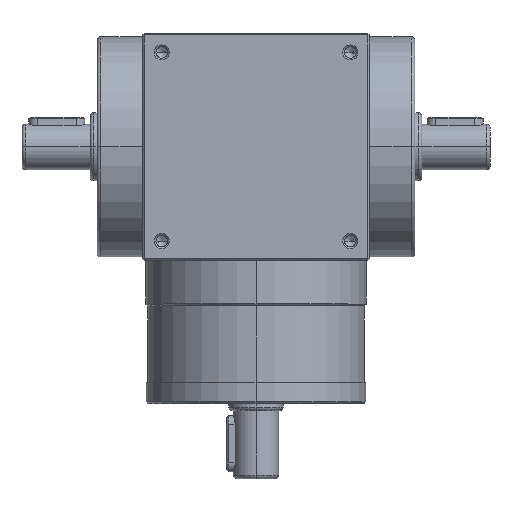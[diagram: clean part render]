
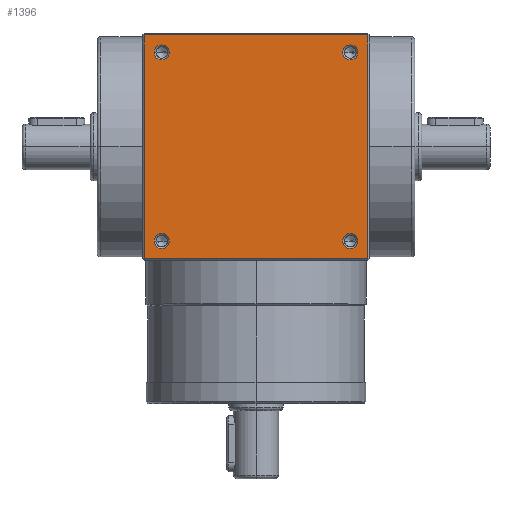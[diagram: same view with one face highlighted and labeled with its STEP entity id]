
A CAD part, top view. The second image highlights one B-rep face of the part: STEP entity #1396.
In plain terms, the highlighted planar face has unit normal (0, 0, 1).
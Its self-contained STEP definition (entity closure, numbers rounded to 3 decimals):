
#49 = AXIS2_PLACEMENT_3D ( 'NONE', #6196, #8644, #323 ) ;
#323 = DIRECTION ( 'NONE',  ( -1., 0., 0. ) ) ;
#409 = CARTESIAN_POINT ( 'NONE',  ( -32., -32., 32.5 ) ) ;
#427 = VERTEX_POINT ( 'NONE', #7299 ) ;
#439 = VERTEX_POINT ( 'NONE', #1587 ) ;
#587 = DIRECTION ( 'NONE',  ( -1., 0., 0. ) ) ;
#916 = DIRECTION ( 'NONE',  ( 1., 0., 0. ) ) ;
#926 = AXIS2_PLACEMENT_3D ( 'NONE', #3801, #7182, #2125 ) ;
#980 = DIRECTION ( 'NONE',  ( 0., 0., -1. ) ) ;
#996 = ORIENTED_EDGE ( 'NONE', *, *, #5405, .T. ) ;
#1021 = DIRECTION ( 'NONE',  ( -1., 0., 0. ) ) ;
#1396 = ADVANCED_FACE ( 'NONE', ( #5207, #2993, #9368, #10684, #5710 ), #2076, .F. ) ;
#1542 = AXIS2_PLACEMENT_3D ( 'NONE', #9309, #8500, #1021 ) ;
#1587 = CARTESIAN_POINT ( 'NONE',  ( -29.15, -27., 32.5 ) ) ;
#1637 = EDGE_LOOP ( 'NONE', ( #4903, #10184 ) ) ;
#1930 = VERTEX_POINT ( 'NONE', #7431 ) ;
#1951 = CARTESIAN_POINT ( 'NONE',  ( 27., 27., 32.5 ) ) ;
#2010 = EDGE_CURVE ( 'NONE', #7117, #1930, #4166, .T. ) ;
#2018 = CARTESIAN_POINT ( 'NONE',  ( -29.15, 27., 32.5 ) ) ;
#2052 = ORIENTED_EDGE ( 'NONE', *, *, #2844, .T. ) ;
#2076 = PLANE ( 'NONE',  #49 ) ;
#2125 = DIRECTION ( 'NONE',  ( -1., 0., 0. ) ) ;
#2153 = CARTESIAN_POINT ( 'NONE',  ( 32., 0., 32.5 ) ) ;
#2245 = CARTESIAN_POINT ( 'NONE',  ( 32., -32., 32.5 ) ) ;
#2321 = CARTESIAN_POINT ( 'NONE',  ( 27., -27., 32.5 ) ) ;
#2374 = CARTESIAN_POINT ( 'NONE',  ( 32., 32., 32.5 ) ) ;
#2672 = DIRECTION ( 'NONE',  ( 0., 0., -1. ) ) ;
#2712 = EDGE_CURVE ( 'NONE', #1930, #7117, #4594, .T. ) ;
#2844 = EDGE_CURVE ( 'NONE', #3461, #5381, #2895, .T. ) ;
#2895 = LINE ( 'NONE', #10079, #5225 ) ;
#2993 = FACE_BOUND ( 'NONE', #9191, .T. ) ;
#3133 = AXIS2_PLACEMENT_3D ( 'NONE', #8534, #980, #7700 ) ;
#3152 = DIRECTION ( 'NONE',  ( 0., 0., -1. ) ) ;
#3170 = CARTESIAN_POINT ( 'NONE',  ( 24.85, -27., 32.5 ) ) ;
#3189 = LINE ( 'NONE', #2153, #8392 ) ;
#3403 = VERTEX_POINT ( 'NONE', #3723 ) ;
#3461 = VERTEX_POINT ( 'NONE', #409 ) ;
#3465 = EDGE_CURVE ( 'NONE', #9654, #427, #5407, .T. ) ;
#3552 = DIRECTION ( 'NONE',  ( 0., 0., -1. ) ) ;
#3597 = EDGE_CURVE ( 'NONE', #5381, #9654, #3189, .T. ) ;
#3723 = CARTESIAN_POINT ( 'NONE',  ( -24.85, 27., 32.5 ) ) ;
#3756 = CARTESIAN_POINT ( 'NONE',  ( 0., 32., 32.5 ) ) ;
#3801 = CARTESIAN_POINT ( 'NONE',  ( -27., 27., 32.5 ) ) ;
#3804 = CIRCLE ( 'NONE', #9423, 2.15 ) ;
#3838 = EDGE_LOOP ( 'NONE', ( #9056, #5038 ) ) ;
#4015 = CIRCLE ( 'NONE', #8630, 2.15 ) ;
#4166 = CIRCLE ( 'NONE', #7031, 2.15 ) ;
#4453 = EDGE_CURVE ( 'NONE', #427, #3461, #9350, .T. ) ;
#4594 = CIRCLE ( 'NONE', #1542, 2.15 ) ;
#4622 = EDGE_LOOP ( 'NONE', ( #9746, #2052, #7363, #4641 ) ) ;
#4641 = ORIENTED_EDGE ( 'NONE', *, *, #3465, .T. ) ;
#4745 = CARTESIAN_POINT ( 'NONE',  ( -32., 0., 32.5 ) ) ;
#4903 = ORIENTED_EDGE ( 'NONE', *, *, #2712, .T. ) ;
#4904 = DIRECTION ( 'NONE',  ( 0., 0., -1. ) ) ;
#5038 = ORIENTED_EDGE ( 'NONE', *, *, #10364, .T. ) ;
#5045 = AXIS2_PLACEMENT_3D ( 'NONE', #8525, #3552, #8388 ) ;
#5207 = FACE_BOUND ( 'NONE', #5556, .T. ) ;
#5225 = VECTOR ( 'NONE', #916, 1000. ) ;
#5381 = VERTEX_POINT ( 'NONE', #2245 ) ;
#5405 = EDGE_CURVE ( 'NONE', #10699, #7777, #4015, .T. ) ;
#5407 = LINE ( 'NONE', #3756, #6700 ) ;
#5414 = DIRECTION ( 'NONE',  ( 0., -1., 0. ) ) ;
#5505 = ORIENTED_EDGE ( 'NONE', *, *, #8478, .T. ) ;
#5556 = EDGE_LOOP ( 'NONE', ( #996, #9053 ) ) ;
#5641 = CARTESIAN_POINT ( 'NONE',  ( -27., -27., 32.5 ) ) ;
#5710 = FACE_OUTER_BOUND ( 'NONE', #4622, .T. ) ;
#5714 = DIRECTION ( 'NONE',  ( -1., 0., 0. ) ) ;
#5852 = CARTESIAN_POINT ( 'NONE',  ( 24.85, 27., 32.5 ) ) ;
#6053 = AXIS2_PLACEMENT_3D ( 'NONE', #5641, #4904, #9076 ) ;
#6073 = DIRECTION ( 'NONE',  ( -1., 0., 0. ) ) ;
#6196 = CARTESIAN_POINT ( 'NONE',  ( 0., 0., 32.5 ) ) ;
#6467 = DIRECTION ( 'NONE',  ( 0., 0., -1. ) ) ;
#6700 = VECTOR ( 'NONE', #7818, 1000. ) ;
#7031 = AXIS2_PLACEMENT_3D ( 'NONE', #1951, #2672, #6073 ) ;
#7117 = VERTEX_POINT ( 'NONE', #5852 ) ;
#7182 = DIRECTION ( 'NONE',  ( 0., 0., -1. ) ) ;
#7279 = DIRECTION ( 'NONE',  ( 0., 1., 0. ) ) ;
#7299 = CARTESIAN_POINT ( 'NONE',  ( -32., 32., 32.5 ) ) ;
#7363 = ORIENTED_EDGE ( 'NONE', *, *, #3597, .T. ) ;
#7401 = VERTEX_POINT ( 'NONE', #2018 ) ;
#7412 = CIRCLE ( 'NONE', #926, 2.15 ) ;
#7431 = CARTESIAN_POINT ( 'NONE',  ( 29.15, 27., 32.5 ) ) ;
#7700 = DIRECTION ( 'NONE',  ( -1., 0., 0. ) ) ;
#7777 = VERTEX_POINT ( 'NONE', #3170 ) ;
#7818 = DIRECTION ( 'NONE',  ( -1., 0., 0. ) ) ;
#7845 = CIRCLE ( 'NONE', #6053, 2.15 ) ;
#7917 = CARTESIAN_POINT ( 'NONE',  ( 29.15, -27., 32.5 ) ) ;
#8388 = DIRECTION ( 'NONE',  ( -1., 0., 0. ) ) ;
#8392 = VECTOR ( 'NONE', #7279, 1000. ) ;
#8478 = EDGE_CURVE ( 'NONE', #439, #8678, #10480, .T. ) ;
#8500 = DIRECTION ( 'NONE',  ( 0., 0., -1. ) ) ;
#8525 = CARTESIAN_POINT ( 'NONE',  ( -27., 27., 32.5 ) ) ;
#8534 = CARTESIAN_POINT ( 'NONE',  ( -27., -27., 32.5 ) ) ;
#8575 = CARTESIAN_POINT ( 'NONE',  ( -24.85, -27., 32.5 ) ) ;
#8630 = AXIS2_PLACEMENT_3D ( 'NONE', #2321, #3152, #5714 ) ;
#8644 = DIRECTION ( 'NONE',  ( 0., 0., -1. ) ) ;
#8678 = VERTEX_POINT ( 'NONE', #8575 ) ;
#8921 = CARTESIAN_POINT ( 'NONE',  ( 27., -27., 32.5 ) ) ;
#9045 = EDGE_CURVE ( 'NONE', #8678, #439, #7845, .T. ) ;
#9053 = ORIENTED_EDGE ( 'NONE', *, *, #9536, .T. ) ;
#9056 = ORIENTED_EDGE ( 'NONE', *, *, #10157, .T. ) ;
#9076 = DIRECTION ( 'NONE',  ( -1., 0., 0. ) ) ;
#9191 = EDGE_LOOP ( 'NONE', ( #10728, #5505 ) ) ;
#9309 = CARTESIAN_POINT ( 'NONE',  ( 27., 27., 32.5 ) ) ;
#9350 = LINE ( 'NONE', #4745, #9881 ) ;
#9368 = FACE_BOUND ( 'NONE', #1637, .T. ) ;
#9378 = CIRCLE ( 'NONE', #5045, 2.15 ) ;
#9423 = AXIS2_PLACEMENT_3D ( 'NONE', #8921, #6467, #587 ) ;
#9536 = EDGE_CURVE ( 'NONE', #7777, #10699, #3804, .T. ) ;
#9654 = VERTEX_POINT ( 'NONE', #2374 ) ;
#9746 = ORIENTED_EDGE ( 'NONE', *, *, #4453, .T. ) ;
#9881 = VECTOR ( 'NONE', #5414, 1000. ) ;
#10079 = CARTESIAN_POINT ( 'NONE',  ( 0., -32., 32.5 ) ) ;
#10157 = EDGE_CURVE ( 'NONE', #3403, #7401, #9378, .T. ) ;
#10184 = ORIENTED_EDGE ( 'NONE', *, *, #2010, .T. ) ;
#10364 = EDGE_CURVE ( 'NONE', #7401, #3403, #7412, .T. ) ;
#10480 = CIRCLE ( 'NONE', #3133, 2.15 ) ;
#10684 = FACE_BOUND ( 'NONE', #3838, .T. ) ;
#10699 = VERTEX_POINT ( 'NONE', #7917 ) ;
#10728 = ORIENTED_EDGE ( 'NONE', *, *, #9045, .T. ) ;
